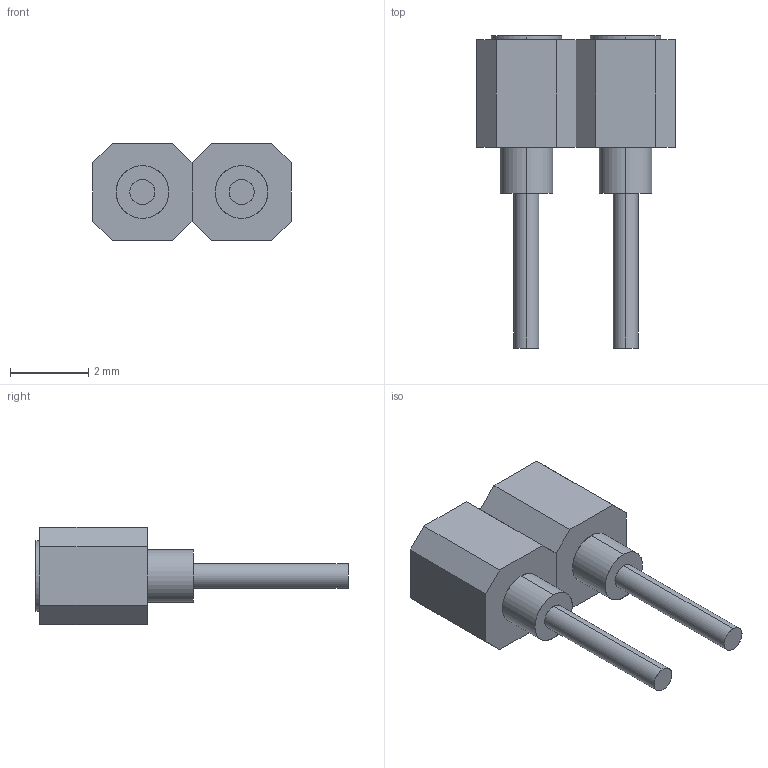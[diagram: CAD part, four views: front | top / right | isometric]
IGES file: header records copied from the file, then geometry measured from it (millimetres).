
Start section: SolidWorks IGES file using analytic representation for surfaces
Global section: file name: C:\Users\AndreBernot\Downloads\K-RACER-L_3D_SW\K-RACER-L_3D_SW\Barette tulipe par 2.IGS; native system: SolidWorks 2015; preprocessor: SolidWorks 2015; author: AndreBernot; date: 170922.150852; units: millimetre
Bounding box: 5.08 x 7.99 x 2.5 mm (x, y, z)
Surface area: 114.7 mm2 (no closed solid volume)
Topology: 0 solids, 0 shells, 44 faces, 480 edges, 480 vertices
Faces by surface type: bspline 28, revolution 16
